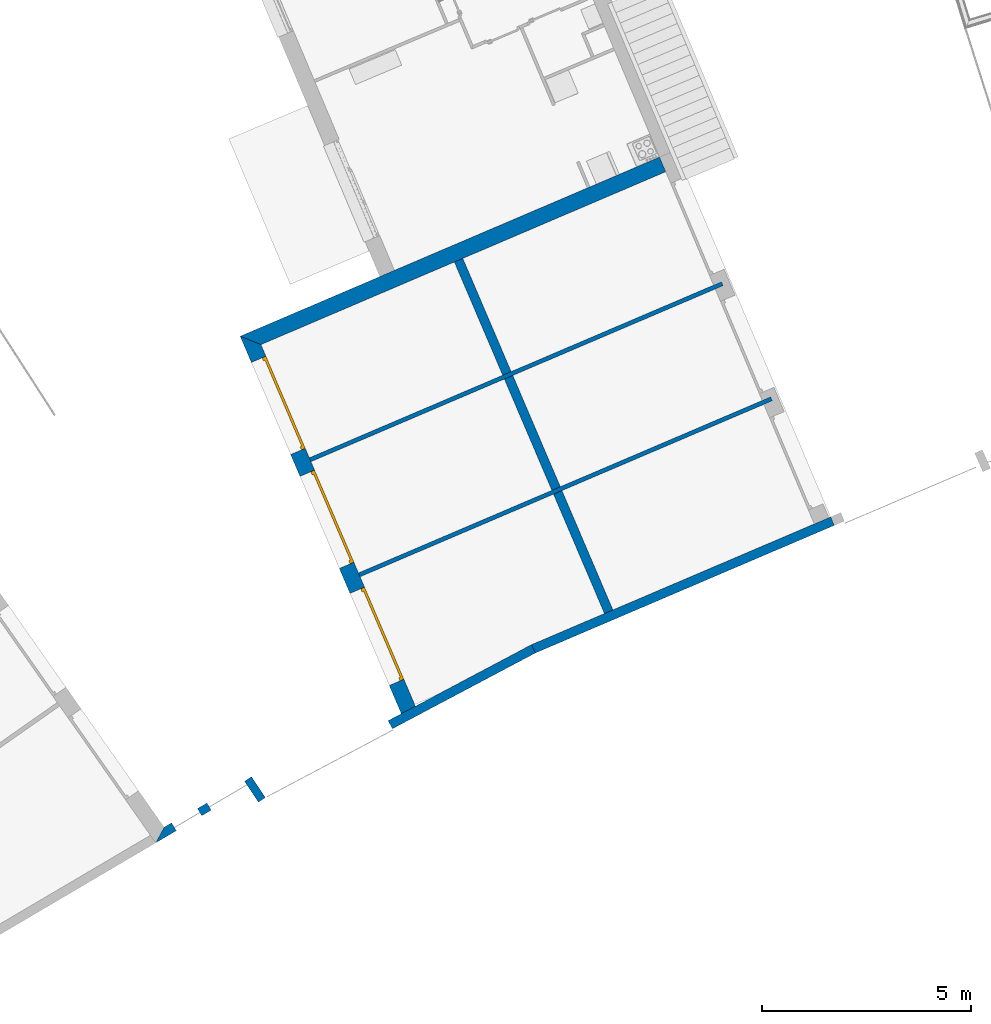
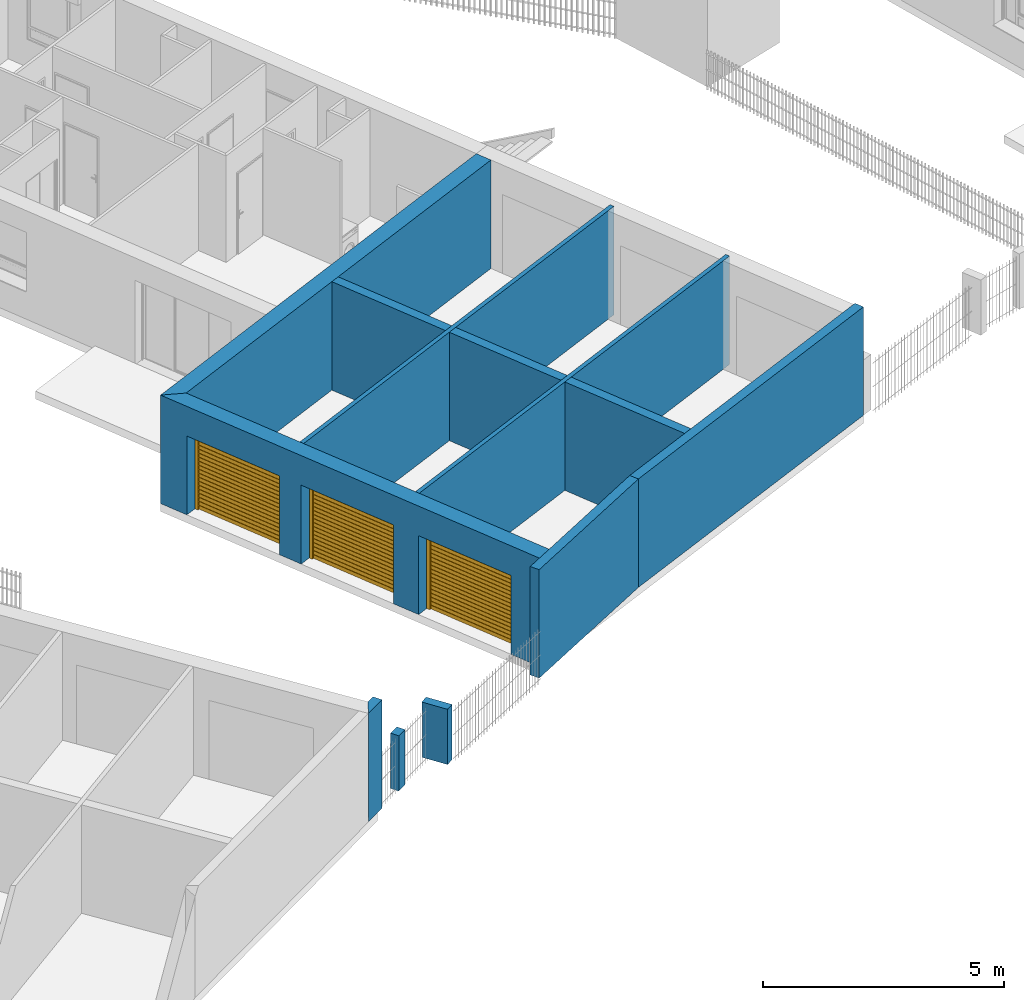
# One storey, part 34 of 195: 10 walls, 3 doors, 3 openings.
"""IFC2X3 building model written with IfcOpenShell, lengths in metres."""

from ifc_helpers import new_model, entity, si_unit, converted_unit, derived_unit, money_unit, direction, frame, origin_with_axes, origin_2d_with_axis, place, context, subcontext, project, spatial, polyline, rectangle, outline, extrude, faceted_brep, source, transform, mapped, material, layer, layer_set, layer_usage, type_object, element, fill, save


model = new_model("IFC2X3")

# Units and contexts
model_context = context("Model", 3, precision=1e-05, world=origin_with_axes(), true_north=direction((0.0, 1.0)))
body_context = subcontext(model_context, "Body", "Model", "MODEL_VIEW")
ifc_project = project(units=[si_unit("LENGTHUNIT", "METRE"), si_unit("AREAUNIT", "SQUARE_METRE"), si_unit("VOLUMEUNIT", "CUBIC_METRE"), converted_unit("PLANEANGLEUNIT", "DEGREE", entity("IfcPlaneAngleMeasure", 0.0174532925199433), si_unit("PLANEANGLEUNIT", "RADIAN"), dimensions=[0, 0, 0, 0, 0, 0, 0]), money_unit("CHF"), converted_unit("TIMEUNIT", "Year", entity("IfcTimeMeasure", 31557600.0), si_unit("TIMEUNIT", "SECOND"), dimensions=[0, 0, 1, 0, 0, 0, 0]), si_unit("MASSUNIT", "GRAM", prefix="KILO"), si_unit("THERMODYNAMICTEMPERATUREUNIT", "DEGREE_CELSIUS"), si_unit("LUMINOUSINTENSITYUNIT", "LUMEN"), si_unit("ENERGYUNIT", "JOULE", prefix="MEGA"), derived_unit("THERMALCONDUCTANCEUNIT", [(si_unit("POWERUNIT", "WATT"), 1), (si_unit("LENGTHUNIT", "METRE"), -1), (si_unit("THERMODYNAMICTEMPERATUREUNIT", "KELVIN"), -1)]), derived_unit("SPECIFICHEATCAPACITYUNIT", [(si_unit("ENERGYUNIT", "JOULE"), 1), (si_unit("MASSUNIT", "GRAM", prefix="KILO"), -1), (si_unit("THERMODYNAMICTEMPERATUREUNIT", "KELVIN"), -1)]), derived_unit("MASSDENSITYUNIT", [(si_unit("MASSUNIT", "GRAM", prefix="KILO"), 1), (si_unit("VOLUMEUNIT", "CUBIC_METRE"), -1)])], contexts=[model_context])

# Site, building, storey
site_placement = place(None, origin_with_axes())
site = spatial("IfcSite", under=ifc_project, at=site_placement, Name="Site", CompositionType="ELEMENT")
building_placement = place(site_placement, origin_with_axes())
building = spatial("IfcBuilding", under=site, at=building_placement, Name="Bâtiment", CompositionType="ELEMENT")
storey_placement = place(building_placement, origin_with_axes())
storey = spatial("IfcBuildingStorey", under=building, at=storey_placement, Name="rdc", CompositionType="ELEMENT", Elevation=0.0)

# Wall
ifc_material_1 = material(Name="Parpaing 312445824")
ifc_layer_1 = layer(ifc_material_1, 0.22, ventilated="UNKNOWN")
ifc_material_2 = material(Name="Isolant styromousse 301821074")
ifc_layer_2 = layer(ifc_material_2, 0.16, ventilated="UNKNOWN")
ifc_layer_set_1 = layer_set([ifc_layer_1, ifc_layer_2], Name="isol int 22+16 0836643197")
ifc_layer_usage_1 = layer_usage(ifc_layer_set_1, "AXIS2", "NEGATIVE", 0.0)
wall_type_1 = type_object("IfcWallType", Name="isol int 22+16 0836643197 380", PredefinedType="NOTDEFINED")
wall_1_placement = place(storey_placement, frame((9564.778289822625, -1058.238617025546, 57.7), z_axis=(0.0, 0.0, 1.0), x_axis=(0.9196521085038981, 0.392734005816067, 0.0)))
element("IfcWallStandardCase", 1, at=wall_1_placement, inside=storey, type_object=wall_type_1, material=ifc_layer_usage_1, Name="Mur-113", context=body_context, shape_type="SweptSolid", body=[
    extrude(outline(polyline([(0.3800000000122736, -0.3799999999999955), (10.92805821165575, -0.3799999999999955), (10.92977841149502, 0.0), (0.0, 0.0), (0.3800000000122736, -0.3799999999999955)])), origin_with_axes(), (0.0, 0.0, 1.0), 2.75),
])

# Wall, openings, doors
ifc_layer_usage_2 = layer_usage(ifc_layer_set_1, "AXIS2", "NEGATIVE", 0.0)
wall_2_placement = place(storey_placement, frame((9568.72748752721, -1067.486321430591, 57.7), z_axis=(0.0, 0.0, 1.0), x_axis=(-0.3927340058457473, 0.9196521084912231, 0.0)))
wall_2 = element("IfcWallStandardCase", 2, at=wall_2_placement, inside=storey, type_object=wall_type_1, material=ifc_layer_usage_2, Name="Mur-113", context=body_context, shape_type="SweptSolid", body=[
    extrude(outline(polyline([(0.2526525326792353, -0.3800000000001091), (9.675655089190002, -0.3799999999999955), (10.05565508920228, 0.0), (0.2207728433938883, 0.0), (0.2526525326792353, -0.3800000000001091)])), origin_with_axes(), (0.0, 0.0, 1.0), 2.75),
])
opening_1_placement = place(wall_2_placement, frame((8.173029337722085, 0.0, 0.0), z_axis=(0.0, 0.0, 1.0), x_axis=(1.0, 0.0, 0.0)))
opening_1 = element("IfcOpeningElement", 3, at=opening_1_placement, cuts=wall_2, Name="Por-301", context=body_context, shape_type="SweptSolid", body=[
    extrude(rectangle(XDim=2.399999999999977, YDim=2.0, at=origin_2d_with_axis()), frame((0.0, -0.3799999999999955, 1.0), z_axis=(0.0, 1.0, 0.0), x_axis=(1.0, 0.0, 0.0)), (0.0, 0.0, -1.0), 0.38),
    extrude(rectangle(XDim=2.399999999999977, YDim=2.0, at=origin_2d_with_axis()), frame((0.0, -0.3799999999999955, 1.0), z_axis=(0.0, -1.0, 0.0), x_axis=(1.0, 0.0, 0.0)), (0.0, 0.0, -1.0), 0.38),
])
opening_2_placement = place(wall_2_placement, frame((5.204489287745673, 0.0, 0.0), z_axis=(0.0, 0.0, 1.0), x_axis=(1.0, 0.0, 0.0)))
opening_2 = element("IfcOpeningElement", 4, at=opening_2_placement, cuts=wall_2, Name="Por-301", context=body_context, shape_type="SweptSolid", body=[
    extrude(rectangle(XDim=2.399999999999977, YDim=2.0, at=origin_2d_with_axis()), frame((0.0, -0.3799999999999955, 1.0), z_axis=(0.0, 1.0, 0.0), x_axis=(1.0, 0.0, 0.0)), (0.0, 0.0, -1.0), 0.38),
    extrude(rectangle(XDim=2.399999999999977, YDim=2.0, at=origin_2d_with_axis()), frame((0.0, -0.3799999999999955, 1.0), z_axis=(0.0, -1.0, 0.0), x_axis=(1.0, 0.0, 0.0)), (0.0, 0.0, -1.0), 0.38),
])
opening_3_placement = place(wall_2_placement, frame((2.155397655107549, 0.0, 0.0), z_axis=(0.0, 0.0, 1.0), x_axis=(1.0, 0.0, 0.0)))
opening_3 = element("IfcOpeningElement", 5, at=opening_3_placement, cuts=wall_2, Name="Por-301", context=body_context, shape_type="SweptSolid", body=[
    extrude(rectangle(XDim=2.399999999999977, YDim=2.0, at=origin_2d_with_axis()), frame((0.0, -0.3799999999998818, 1.0), z_axis=(0.0, 1.0, 0.0), x_axis=(1.0, 0.0, 0.0)), (0.0, 0.0, -1.0), 0.38),
    extrude(rectangle(XDim=2.399999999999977, YDim=2.0, at=origin_2d_with_axis()), frame((0.0, -0.3799999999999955, 1.0), z_axis=(0.0, -1.0, 0.0), x_axis=(1.0, 0.0, 0.0)), (0.0, 0.0, -1.0), 0.38),
])
door_style = type_object("IfcDoorStyle", ConstructionType="NOTDEFINED", OperationType="NOTDEFINED", ParameterTakesPrecedence=False, Sizeable=False)
shared_shape = source(origin_with_axes(), body_context, "Body", "Brep", [
    faceted_brep([(-1.2, 0.0, 0.0), (-1.2, -0.09999999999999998, 0.0), (-1.2, -0.09999999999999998, 2.0), (-1.2, 0.0, 2.0), (-1.12, 0.0, 0.0), (-1.12, -0.09999999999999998, 0.0), (-1.12, -0.09999999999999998, 1.92), (1.12, -0.09999999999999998, 1.92), (1.12, -0.09999999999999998, 0.0), (1.2, -0.09999999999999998, 0.0), (1.2, -0.09999999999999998, 2.0), (1.2, 0.0, 2.0), (1.2, 0.0, 0.0), (1.12, 0.0, 0.0), (1.12, 0.0, 1.92), (-1.12, 0.0, 1.92)], [[[0, 1, 2, 3]], [[4, 5, 1, 0]], [[1, 5, 6, 7, 8, 9, 10, 2]], [[3, 2, 10, 11]], [[0, 3, 11, 12, 13, 14, 15, 4]], [[15, 6, 5, 4]], [[14, 7, 6, 15]], [[13, 8, 7, 14]], [[12, 9, 8, 13]], [[11, 10, 9, 12]]]),
    faceted_brep([(-1.12, -0.03999999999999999, 0.0), (-1.12, -0.05999999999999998, 0.0), (-1.12, -0.05999999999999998, 0.09157894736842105), (-1.12, -0.03999999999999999, 0.09157894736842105), (1.12, -0.03999999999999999, 0.0), (1.12, -0.05999999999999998, 0.0), (1.12, -0.05999999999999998, 0.09157894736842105), (1.12, -0.03999999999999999, 0.09157894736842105)], [[[0, 1, 2, 3]], [[4, 5, 1, 0]], [[1, 5, 6, 2]], [[3, 2, 6, 7]], [[0, 3, 7, 4]], [[7, 6, 5, 4]]]),
    faceted_brep([(-1.12, -0.03999999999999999, 0.101578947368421), (-1.12, -0.05999999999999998, 0.101578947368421), (-1.12, -0.05999999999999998, 0.1931578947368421), (-1.12, -0.03999999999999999, 0.1931578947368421), (1.12, -0.03999999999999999, 0.101578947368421), (1.12, -0.05999999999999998, 0.101578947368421), (1.12, -0.05999999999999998, 0.1931578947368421), (1.12, -0.03999999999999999, 0.1931578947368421)], [[[0, 1, 2, 3]], [[4, 5, 1, 0]], [[1, 5, 6, 2]], [[3, 2, 6, 7]], [[0, 3, 7, 4]], [[7, 6, 5, 4]]]),
    faceted_brep([(-1.12, -0.03999999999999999, 0.2031578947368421), (-1.12, -0.05999999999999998, 0.2031578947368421), (-1.12, -0.05999999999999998, 0.2947368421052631), (-1.12, -0.03999999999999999, 0.2947368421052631), (1.12, -0.03999999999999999, 0.2031578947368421), (1.12, -0.05999999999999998, 0.2031578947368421), (1.12, -0.05999999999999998, 0.2947368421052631), (1.12, -0.03999999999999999, 0.2947368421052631)], [[[0, 1, 2, 3]], [[4, 5, 1, 0]], [[1, 5, 6, 2]], [[3, 2, 6, 7]], [[0, 3, 7, 4]], [[7, 6, 5, 4]]]),
    faceted_brep([(-1.12, -0.03999999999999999, 0.3047368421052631), (-1.12, -0.05999999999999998, 0.3047368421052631), (-1.12, -0.05999999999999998, 0.3963157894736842), (-1.12, -0.03999999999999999, 0.3963157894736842), (1.12, -0.03999999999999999, 0.3047368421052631), (1.12, -0.05999999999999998, 0.3047368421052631), (1.12, -0.05999999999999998, 0.3963157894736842), (1.12, -0.03999999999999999, 0.3963157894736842)], [[[0, 1, 2, 3]], [[4, 5, 1, 0]], [[1, 5, 6, 2]], [[3, 2, 6, 7]], [[0, 3, 7, 4]], [[7, 6, 5, 4]]]),
    faceted_brep([(-1.12, -0.03999999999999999, 0.4063157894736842), (-1.12, -0.05999999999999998, 0.4063157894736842), (-1.12, -0.05999999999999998, 0.4978947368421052), (-1.12, -0.03999999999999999, 0.4978947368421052), (1.12, -0.03999999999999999, 0.4063157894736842), (1.12, -0.05999999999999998, 0.4063157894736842), (1.12, -0.05999999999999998, 0.4978947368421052), (1.12, -0.03999999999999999, 0.4978947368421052)], [[[0, 1, 2, 3]], [[4, 5, 1, 0]], [[1, 5, 6, 2]], [[3, 2, 6, 7]], [[0, 3, 7, 4]], [[7, 6, 5, 4]]]),
    faceted_brep([(-1.12, -0.03999999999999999, 0.5078947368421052), (-1.12, -0.05999999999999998, 0.5078947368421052), (-1.12, -0.05999999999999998, 0.5994736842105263), (-1.12, -0.03999999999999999, 0.5994736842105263), (1.12, -0.03999999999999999, 0.5078947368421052), (1.12, -0.05999999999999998, 0.5078947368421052), (1.12, -0.05999999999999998, 0.5994736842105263), (1.12, -0.03999999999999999, 0.5994736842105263)], [[[0, 1, 2, 3]], [[4, 5, 1, 0]], [[1, 5, 6, 2]], [[3, 2, 6, 7]], [[0, 3, 7, 4]], [[7, 6, 5, 4]]]),
    faceted_brep([(-1.12, -0.03999999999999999, 0.6094736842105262), (-1.12, -0.05999999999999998, 0.6094736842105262), (-1.12, -0.05999999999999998, 0.7010526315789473), (-1.12, -0.03999999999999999, 0.7010526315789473), (1.12, -0.03999999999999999, 0.6094736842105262), (1.12, -0.05999999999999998, 0.6094736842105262), (1.12, -0.05999999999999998, 0.7010526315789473), (1.12, -0.03999999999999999, 0.7010526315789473)], [[[0, 1, 2, 3]], [[4, 5, 1, 0]], [[1, 5, 6, 2]], [[3, 2, 6, 7]], [[0, 3, 7, 4]], [[7, 6, 5, 4]]]),
    faceted_brep([(-1.12, -0.03999999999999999, 0.7110526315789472), (-1.12, -0.05999999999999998, 0.7110526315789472), (-1.12, -0.05999999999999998, 0.8026315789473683), (-1.12, -0.03999999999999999, 0.8026315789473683), (1.12, -0.03999999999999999, 0.7110526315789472), (1.12, -0.05999999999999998, 0.7110526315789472), (1.12, -0.05999999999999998, 0.8026315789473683), (1.12, -0.03999999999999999, 0.8026315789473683)], [[[0, 1, 2, 3]], [[4, 5, 1, 0]], [[1, 5, 6, 2]], [[3, 2, 6, 7]], [[0, 3, 7, 4]], [[7, 6, 5, 4]]]),
    faceted_brep([(-1.12, -0.03999999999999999, 0.8126315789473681), (-1.12, -0.05999999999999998, 0.8126315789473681), (-1.12, -0.05999999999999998, 0.9042105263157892), (-1.12, -0.03999999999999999, 0.9042105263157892), (1.12, -0.03999999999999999, 0.8126315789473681), (1.12, -0.05999999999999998, 0.8126315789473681), (1.12, -0.05999999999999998, 0.9042105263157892), (1.12, -0.03999999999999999, 0.9042105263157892)], [[[0, 1, 2, 3]], [[4, 5, 1, 0]], [[1, 5, 6, 2]], [[3, 2, 6, 7]], [[0, 3, 7, 4]], [[7, 6, 5, 4]]]),
    faceted_brep([(-1.12, -0.03999999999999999, 0.9142105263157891), (-1.12, -0.05999999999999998, 0.9142105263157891), (-1.12, -0.05999999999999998, 1.00578947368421), (-1.12, -0.03999999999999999, 1.00578947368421), (1.12, -0.03999999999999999, 0.9142105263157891), (1.12, -0.05999999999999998, 0.9142105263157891), (1.12, -0.05999999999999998, 1.00578947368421), (1.12, -0.03999999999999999, 1.00578947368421)], [[[0, 1, 2, 3]], [[4, 5, 1, 0]], [[1, 5, 6, 2]], [[3, 2, 6, 7]], [[0, 3, 7, 4]], [[7, 6, 5, 4]]]),
    faceted_brep([(-1.12, -0.03999999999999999, 1.01578947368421), (-1.12, -0.05999999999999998, 1.01578947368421), (-1.12, -0.05999999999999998, 1.107368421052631), (-1.12, -0.03999999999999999, 1.107368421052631), (1.12, -0.03999999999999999, 1.01578947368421), (1.12, -0.05999999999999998, 1.01578947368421), (1.12, -0.05999999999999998, 1.107368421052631), (1.12, -0.03999999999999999, 1.107368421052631)], [[[0, 1, 2, 3]], [[4, 5, 1, 0]], [[1, 5, 6, 2]], [[3, 2, 6, 7]], [[0, 3, 7, 4]], [[7, 6, 5, 4]]]),
    faceted_brep([(-1.12, -0.03999999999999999, 1.117368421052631), (-1.12, -0.05999999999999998, 1.117368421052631), (-1.12, -0.05999999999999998, 1.208947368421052), (-1.12, -0.03999999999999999, 1.208947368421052), (1.12, -0.03999999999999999, 1.117368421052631), (1.12, -0.05999999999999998, 1.117368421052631), (1.12, -0.05999999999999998, 1.208947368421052), (1.12, -0.03999999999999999, 1.208947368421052)], [[[0, 1, 2, 3]], [[4, 5, 1, 0]], [[1, 5, 6, 2]], [[3, 2, 6, 7]], [[0, 3, 7, 4]], [[7, 6, 5, 4]]]),
    faceted_brep([(-1.12, -0.03999999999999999, 1.218947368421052), (-1.12, -0.05999999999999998, 1.218947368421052), (-1.12, -0.05999999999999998, 1.310526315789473), (-1.12, -0.03999999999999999, 1.310526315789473), (1.12, -0.03999999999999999, 1.218947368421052), (1.12, -0.05999999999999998, 1.218947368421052), (1.12, -0.05999999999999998, 1.310526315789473), (1.12, -0.03999999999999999, 1.310526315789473)], [[[0, 1, 2, 3]], [[4, 5, 1, 0]], [[1, 5, 6, 2]], [[3, 2, 6, 7]], [[0, 3, 7, 4]], [[7, 6, 5, 4]]]),
    faceted_brep([(-1.12, -0.03999999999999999, 1.320526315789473), (-1.12, -0.05999999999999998, 1.320526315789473), (-1.12, -0.05999999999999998, 1.412105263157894), (-1.12, -0.03999999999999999, 1.412105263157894), (1.12, -0.03999999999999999, 1.320526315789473), (1.12, -0.05999999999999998, 1.320526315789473), (1.12, -0.05999999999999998, 1.412105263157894), (1.12, -0.03999999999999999, 1.412105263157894)], [[[0, 1, 2, 3]], [[4, 5, 1, 0]], [[1, 5, 6, 2]], [[3, 2, 6, 7]], [[0, 3, 7, 4]], [[7, 6, 5, 4]]]),
    faceted_brep([(-1.12, -0.03999999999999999, 1.422105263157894), (-1.12, -0.05999999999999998, 1.422105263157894), (-1.12, -0.05999999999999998, 1.513684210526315), (-1.12, -0.03999999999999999, 1.513684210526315), (1.12, -0.03999999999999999, 1.422105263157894), (1.12, -0.05999999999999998, 1.422105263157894), (1.12, -0.05999999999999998, 1.513684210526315), (1.12, -0.03999999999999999, 1.513684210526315)], [[[0, 1, 2, 3]], [[4, 5, 1, 0]], [[1, 5, 6, 2]], [[3, 2, 6, 7]], [[0, 3, 7, 4]], [[7, 6, 5, 4]]]),
    faceted_brep([(-1.12, -0.03999999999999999, 1.523684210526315), (-1.12, -0.05999999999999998, 1.523684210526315), (-1.12, -0.05999999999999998, 1.615263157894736), (-1.12, -0.03999999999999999, 1.615263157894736), (1.12, -0.03999999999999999, 1.523684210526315), (1.12, -0.05999999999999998, 1.523684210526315), (1.12, -0.05999999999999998, 1.615263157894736), (1.12, -0.03999999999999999, 1.615263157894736)], [[[0, 1, 2, 3]], [[4, 5, 1, 0]], [[1, 5, 6, 2]], [[3, 2, 6, 7]], [[0, 3, 7, 4]], [[7, 6, 5, 4]]]),
    faceted_brep([(-1.12, -0.03999999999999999, 1.625263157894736), (-1.12, -0.05999999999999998, 1.625263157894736), (-1.12, -0.05999999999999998, 1.716842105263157), (-1.12, -0.03999999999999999, 1.716842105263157), (1.12, -0.03999999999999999, 1.625263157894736), (1.12, -0.05999999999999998, 1.625263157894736), (1.12, -0.05999999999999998, 1.716842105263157), (1.12, -0.03999999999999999, 1.716842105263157)], [[[0, 1, 2, 3]], [[4, 5, 1, 0]], [[1, 5, 6, 2]], [[3, 2, 6, 7]], [[0, 3, 7, 4]], [[7, 6, 5, 4]]]),
    faceted_brep([(-1.12, -0.03999999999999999, 1.726842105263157), (-1.12, -0.05999999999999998, 1.726842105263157), (-1.12, -0.05999999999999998, 1.818421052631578), (-1.12, -0.03999999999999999, 1.818421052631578), (1.12, -0.03999999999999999, 1.726842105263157), (1.12, -0.05999999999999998, 1.726842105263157), (1.12, -0.05999999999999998, 1.818421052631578), (1.12, -0.03999999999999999, 1.818421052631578)], [[[0, 1, 2, 3]], [[4, 5, 1, 0]], [[1, 5, 6, 2]], [[3, 2, 6, 7]], [[0, 3, 7, 4]], [[7, 6, 5, 4]]]),
    faceted_brep([(-1.12, -0.03999999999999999, 1.828421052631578), (-1.12, -0.05999999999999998, 1.828421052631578), (-1.12, -0.05999999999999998, 1.919999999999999), (-1.12, -0.03999999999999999, 1.919999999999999), (1.12, -0.03999999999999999, 1.828421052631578), (1.12, -0.05999999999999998, 1.828421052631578), (1.12, -0.05999999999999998, 1.919999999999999), (1.12, -0.03999999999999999, 1.919999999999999)], [[[0, 1, 2, 3]], [[4, 5, 1, 0]], [[1, 5, 6, 2]], [[3, 2, 6, 7]], [[0, 3, 7, 4]], [[7, 6, 5, 4]]]),
    faceted_brep([(1.12, -0.05999999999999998, 0.0), (1.12, -0.09999999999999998, 0.0), (-1.12, -0.09999999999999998, 0.0), (-1.12, -0.05999999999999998, 0.0), (1.12, -0.05999999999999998, 1.92), (1.12, -0.09999999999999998, 1.92), (-1.12, -0.09999999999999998, 1.92), (-1.12, -0.05999999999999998, 1.92)], [[[0, 1, 2, 3]], [[4, 5, 1, 0]], [[1, 5, 6, 2]], [[3, 2, 6, 7]], [[0, 3, 7, 4]], [[7, 6, 5, 4]]]),
])
door_1_placement = place(opening_1_placement, frame((-1.199999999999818, 0.0, 0.0), z_axis=(0.0, 0.0, 1.0), x_axis=(1.0, 0.0, 0.0)))
door_1 = element("IfcDoor", 6, at=door_1_placement, inside=storey, type_object=door_style, Name="Por-301", OverallHeight=2.0, OverallWidth=2.4, context=body_context, shape_type="MappedRepresentation", body=[
    mapped(shared_shape, transform((1.199999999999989, -0.2799999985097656, 0.0))),
])
fill(opening_1, door_1)
door_2_placement = place(opening_2_placement, frame((-1.199999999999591, 0.0, 0.0), z_axis=(0.0, 0.0, 1.0), x_axis=(1.0, 0.0, 0.0)))
door_2 = element("IfcDoor", 7, at=door_2_placement, inside=storey, type_object=door_style, Name="Por-301", OverallHeight=2.0, OverallWidth=2.4, context=body_context, shape_type="MappedRepresentation", body=[
    mapped(shared_shape, transform((1.199999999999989, -0.2799999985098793, 0.0))),
])
fill(opening_2, door_2)
door_3_placement = place(opening_3_placement, frame((-1.200000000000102, 0.0, 0.0), z_axis=(0.0, 0.0, 1.0), x_axis=(1.0, 0.0, 0.0)))
door_3 = element("IfcDoor", 8, at=door_3_placement, inside=storey, type_object=door_style, Name="Por-301", OverallHeight=2.0, OverallWidth=2.4, context=body_context, shape_type="MappedRepresentation", body=[
    mapped(shared_shape, transform((1.199999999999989, -0.2799999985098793, 0.0))),
])
fill(opening_3, door_3)

# Walls
ifc_layer_3 = layer(ifc_material_1, 0.22, ventilated="UNKNOWN")
ifc_layer_set_2 = layer_set([ifc_layer_3], Name="Beton  22 0836643198")
ifc_layer_usage_3 = layer_usage(ifc_layer_set_2, "AXIS2", "NEGATIVE", 0.0)
wall_type_2 = type_object("IfcWallType", Name="Beton  22 0836643198 220", PredefinedType="NOTDEFINED")
wall_3_placement = place(storey_placement, frame((9563.247507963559, -1070.088607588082, 57.7), z_axis=(0.0, 0.0, 1.0), x_axis=(-0.861584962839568, -0.5076133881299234, 0.0)))
element("IfcWallStandardCase", 9, at=wall_3_placement, inside=storey, type_object=wall_type_2, material=ifc_layer_usage_3, Name="Mur-108", context=body_context, shape_type="SweptSolid", body=[
    extrude(outline(polyline([(0.0, -0.2200000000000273), (0.2079020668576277, -0.2199999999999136), (0.5716431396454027, 0.0), (0.0, 0.0), (0.0, -0.2200000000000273)])), origin_with_axes(), (0.0, 0.0, 1.0), 2.75),
])
ifc_material_3 = material(Name="Parpaing 314940890")
ifc_layer_4 = layer(ifc_material_3, 0.22, ventilated="UNKNOWN")
ifc_layer_set_3 = layer_set([ifc_layer_4], Name="Beton  22 0836643197")
ifc_layer_usage_4 = layer_usage(ifc_layer_set_3, "AXIS2", "NEGATIVE", 0.11)
wall_type_3 = type_object("IfcWallType", Name="Beton  22 0836643197 220", PredefinedType="NOTDEFINED")
wall_4_placement = place(storey_placement, frame((9573.696961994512, -1065.042396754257, 57.7), z_axis=(0.0, 0.0, 1.0), x_axis=(-0.3927340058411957, 0.9196521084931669, 0.0)))
element("IfcWallStandardCase", 10, at=wall_4_placement, inside=storey, type_object=wall_type_3, material=ifc_layer_usage_4, Name="Mur-113", context=body_context, shape_type="SweptSolid", body=[
    extrude(outline(polyline([(0.2199957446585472, -0.1100000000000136), (9.379776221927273, -0.1100000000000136), (9.379776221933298, 0.1100000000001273), (0.2200042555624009, 0.1100000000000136), (0.2199957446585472, -0.1100000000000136)])), origin_with_axes(), (0.0, 0.0, 1.0), 2.75),
])
ifc_layer_usage_5 = layer_usage(ifc_layer_set_3, "AXIS2", "NEGATIVE", 0.0)
wall_5_placement = place(storey_placement, frame((9579.016766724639, -1062.770837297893, 57.7), z_axis=(0.0, 0.0, 1.0), x_axis=(-0.9196673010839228, -0.3926984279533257, 0.0)))
element("IfcWallStandardCase", 11, at=wall_5_placement, inside=storey, type_object=wall_type_3, material=ifc_layer_usage_5, Name="Mur-113", context=body_context, shape_type="SweptSolid", body=[
    extrude(outline(polyline([(-2.241013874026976e-05, -0.2200000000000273), (7.795960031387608, -0.2199999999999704), (7.786743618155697, 0.0), (0.0, 0.0), (-2.241013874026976e-05, -0.2200000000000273)])), origin_with_axes(), (0.0, 0.0, 1.0), 2.75),
])
ifc_layer_usage_6 = layer_usage(ifc_layer_set_3, "AXIS2", "NEGATIVE", 0.0)
wall_6_placement = place(storey_placement, frame((9571.855553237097, -1065.828679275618, 57.7), z_axis=(0.0, 0.0, 1.0), x_axis=(-0.8836000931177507, -0.4682423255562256, 0.0)))
element("IfcWallStandardCase", 12, at=wall_6_placement, inside=storey, type_object=wall_type_3, material=ifc_layer_usage_6, Name="Mur-113", context=body_context, shape_type="SweptSolid", body=[
    extrude(outline(polyline([(-0.009216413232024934, -0.2200000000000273), (3.87972997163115, -0.2200000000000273), (3.87972997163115, 0.0), (0.0, 0.0), (-0.009216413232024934, -0.2200000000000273)])), origin_with_axes(), (0.0, 0.0, 1.0), 2.75),
])
ifc_layer_5 = layer(ifc_material_3, 0.1, ventilated="UNKNOWN")
ifc_layer_set_4 = layer_set([ifc_layer_5], Name="Beton  10")
ifc_layer_usage_7 = layer_usage(ifc_layer_set_4, "AXIS2", "POSITIVE", -0.05)
wall_type_4 = type_object("IfcWallType", Name="Beton  10 100", PredefinedType="NOTDEFINED")
wall_7_placement = place(storey_placement, frame((9577.511106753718, -1059.73852094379, 57.7), z_axis=(0.0, 0.0, 1.0), x_axis=(-0.9196521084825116, -0.3927340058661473, 0.0)))
element("IfcWallStandardCase", 13, at=wall_7_placement, inside=storey, type_object=wall_type_4, material=ifc_layer_usage_7, Name="Mur-113", context=body_context, shape_type="SweptSolid", body=[
    extrude(outline(polyline([(0.0, -0.05000000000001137), (10.74069866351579, -0.05000000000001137), (10.74069866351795, 0.05000000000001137), (0.0, 0.05000000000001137), (0.0, -0.05000000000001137)])), origin_with_axes(), (0.0, 0.0, 1.0), 2.75),
])
ifc_layer_usage_8 = layer_usage(ifc_layer_set_4, "AXIS2", "POSITIVE", -0.05)
wall_8_placement = place(storey_placement, frame((9576.331718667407, -1056.98007112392, 57.7), z_axis=(0.0, 0.0, 1.0), x_axis=(-0.9196521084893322, -0.3927340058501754, 0.0)))
element("IfcWallStandardCase", 14, at=wall_8_placement, inside=storey, type_object=wall_type_4, material=ifc_layer_usage_8, Name="Mur-113", context=body_context, shape_type="SweptSolid", body=[
    extrude(outline(polyline([(0.0, -0.05000000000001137), (10.7394089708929, -0.05000000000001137), (10.73940897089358, 0.05000000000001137), (0.0, 0.05000000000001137), (0.0, -0.05000000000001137)])), origin_with_axes(), (0.0, 0.0, 1.0), 2.75),
])
ifc_material_4 = material(Name="MANQUANT")
ifc_layer_6 = layer(ifc_material_4, 0.2, ventilated="UNKNOWN")
ifc_layer_set_5 = layer_set([ifc_layer_6], Name="MANQUANT 0.2")
ifc_layer_usage_9 = layer_usage(ifc_layer_set_5, "AXIS2", "POSITIVE", 0.0)
wall_type_5 = type_object("IfcWallType", Name="MANQUANT 200", PredefinedType="NOTDEFINED")
wall_9_placement = place(storey_placement, frame((9565.38374130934, -1069.293721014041, 57.7), z_axis=(0.0, 0.0, 1.0), x_axis=(-0.5546178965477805, 0.8321051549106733, 0.0)))
element("IfcWallStandardCase", 15, at=wall_9_placement, inside=storey, type_object=wall_type_5, material=ifc_layer_usage_9, Name="Mur-151", context=body_context, shape_type="SweptSolid", body=[
    extrude(outline(polyline([(0.0, 0.0), (0.6004425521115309, 0.0), (0.6004425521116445, 0.1999999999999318), (0.0, 0.2000000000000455), (0.0, 0.0)])), origin_with_axes(), (0.0, 0.0, 1.0), 1.4),
])
ifc_layer_usage_10 = layer_usage(ifc_layer_set_5, "AXIS2", "NEGATIVE", 0.0)
wall_10_placement = place(storey_placement, frame((9563.757064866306, -1069.556265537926, 57.7), z_axis=(0.0, 0.0, 1.0), x_axis=(0.8615849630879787, 0.5076133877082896, 0.0)))
element("IfcWallStandardCase", 16, at=wall_10_placement, inside=storey, type_object=wall_type_5, material=ifc_layer_usage_10, Name="Mur-151", context=body_context, shape_type="SweptSolid", body=[
    extrude(outline(polyline([(0.0, -0.2000000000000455), (0.2624142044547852, -0.2000000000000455), (0.2624142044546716, 0.0), (0.0, 0.0), (0.0, -0.2000000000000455)])), origin_with_axes(), (0.0, 0.0, 1.0), 1.4),
])

save(model, "model.ifc")
